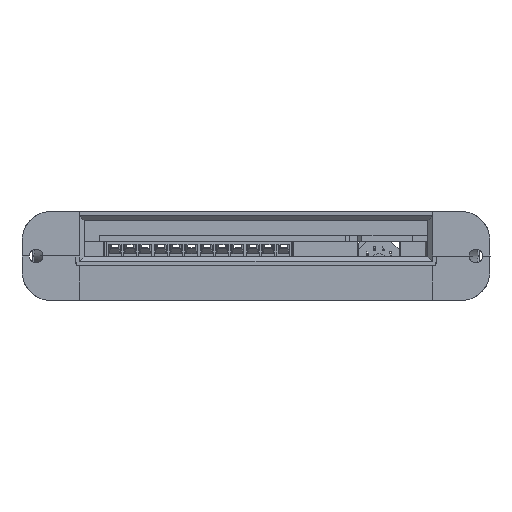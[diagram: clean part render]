
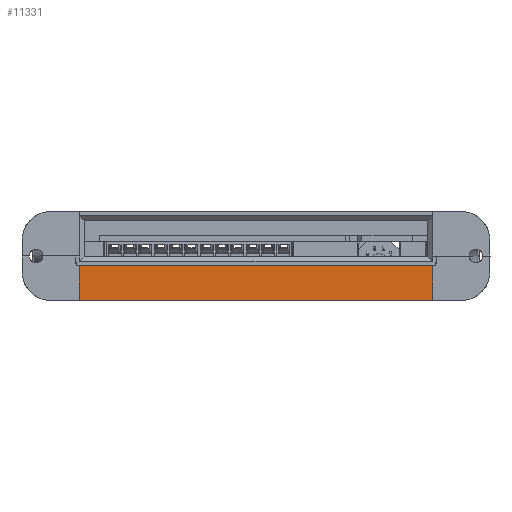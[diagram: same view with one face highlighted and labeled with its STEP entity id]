
A CAD part, left-side view. The second image highlights one B-rep face of the part: STEP entity #11331.
In plain terms, the highlighted planar face has unit normal (-1, 0, -0.018).
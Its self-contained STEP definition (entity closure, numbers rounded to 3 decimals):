
#2303 = LINE ( 'NONE', #54941, #36526 ) ;
#3576 = ORIENTED_EDGE ( 'NONE', *, *, #10566, .F. ) ;
#4777 = VERTEX_POINT ( 'NONE', #44191 ) ;
#5595 = EDGE_CURVE ( 'NONE', #46705, #4777, #2303, .T. ) ;
#7847 = LINE ( 'NONE', #42210, #18345 ) ;
#9666 = CARTESIAN_POINT ( 'NONE',  ( -4.616, -68.8, 11. ) ) ;
#10566 = EDGE_CURVE ( 'NONE', #48564, #4777, #15078, .T. ) ;
#11331 = ADVANCED_FACE ( 'NONE', ( #23948 ), #52976, .T. ) ;
#11514 = EDGE_CURVE ( 'NONE', #48564, #27044, #7847, .T. ) ;
#12011 = ORIENTED_EDGE ( 'NONE', *, *, #5595, .T. ) ;
#12865 = ORIENTED_EDGE ( 'NONE', *, *, #41172, .T. ) ;
#12957 = CARTESIAN_POINT ( 'NONE',  ( -4.616, -80., 11. ) ) ;
#14151 = DIRECTION ( 'NONE',  ( -0.017, 0., 1. ) ) ;
#15078 = LINE ( 'NONE', #32690, #38847 ) ;
#17446 = DIRECTION ( 'NONE',  ( 0.017, 0., -1. ) ) ;
#18345 = VECTOR ( 'NONE', #37732, 1000. ) ;
#21144 = VECTOR ( 'NONE', #14151, 1000. ) ;
#21204 = AXIS2_PLACEMENT_3D ( 'NONE', #12957, #44215, #17446 ) ;
#23673 = DIRECTION ( 'NONE',  ( 0., 1., 0. ) ) ;
#23948 = FACE_OUTER_BOUND ( 'NONE', #46633, .T. ) ;
#27044 = VERTEX_POINT ( 'NONE', #55084 ) ;
#29352 = CARTESIAN_POINT ( 'NONE',  ( -4.575, -68.8, 8.6 ) ) ;
#32690 = CARTESIAN_POINT ( 'NONE',  ( -4.616, 18.8, 11. ) ) ;
#34325 = CARTESIAN_POINT ( 'NONE',  ( -4.424, 18.8, 0. ) ) ;
#36526 = VECTOR ( 'NONE', #23673, 1000. ) ;
#37732 = DIRECTION ( 'NONE',  ( 0., -1., 0. ) ) ;
#38847 = VECTOR ( 'NONE', #54790, 1000. ) ;
#41172 = EDGE_CURVE ( 'NONE', #27044, #46705, #56788, .T. ) ;
#42210 = CARTESIAN_POINT ( 'NONE',  ( -4.424, 30., 0. ) ) ;
#44191 = CARTESIAN_POINT ( 'NONE',  ( -4.575, 18.8, 8.6 ) ) ;
#44215 = DIRECTION ( 'NONE',  ( -1., 0., -0.017 ) ) ;
#46633 = EDGE_LOOP ( 'NONE', ( #48143, #12865, #12011, #3576 ) ) ;
#46705 = VERTEX_POINT ( 'NONE', #29352 ) ;
#48143 = ORIENTED_EDGE ( 'NONE', *, *, #11514, .T. ) ;
#48564 = VERTEX_POINT ( 'NONE', #34325 ) ;
#52976 = PLANE ( 'NONE',  #21204 ) ;
#54790 = DIRECTION ( 'NONE',  ( -0.017, 0., 1. ) ) ;
#54941 = CARTESIAN_POINT ( 'NONE',  ( -4.575, -80., 8.6 ) ) ;
#55084 = CARTESIAN_POINT ( 'NONE',  ( -4.424, -68.8, 0. ) ) ;
#56788 = LINE ( 'NONE', #9666, #21144 ) ;
